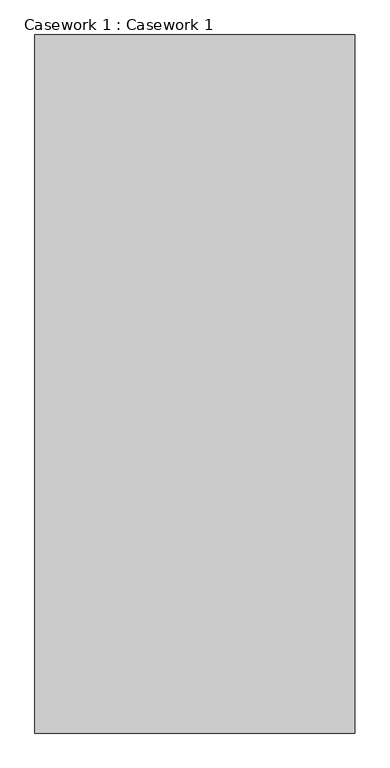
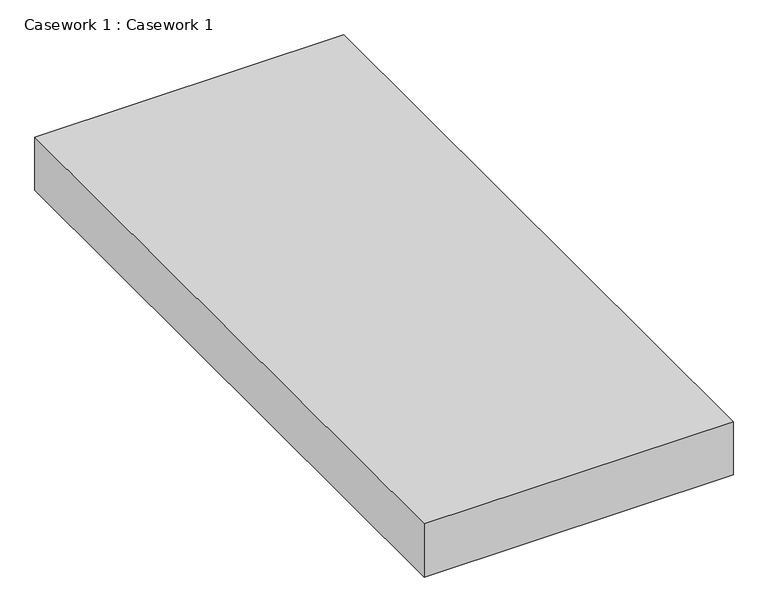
"""IFC4 building model written with IfcOpenShell, lengths in millimetres: furniture geometry, Casework 1 : Casework 1."""

from ifc_helpers import new_model, si_unit, origin, origin_with_axes, place, context, project, spatial, polyline, outline, extrude, source, transform, mapped, element, save


def casework_1_casework_1_6aa84fe4(model_context):
    return source(origin(), model_context, "Body", "SweptSolid", [
        extrude(outline(polyline([(1000.0, 4900.0), (1000.0, 2500.0), (-100.0, 2500.0), (-100.0, 4900.0), (1000.0, 4900.0)])), origin_with_axes(), (0.0, 0.0, 1.0), 200.0),
    ])


if __name__ == "__main__":
    model = new_model("IFC4")
    model_context = context("Model", 3, world=origin())
    ifc_project = project(units=[si_unit("LENGTHUNIT", "METRE", prefix="MILLI")], contexts=[model_context])
    site = spatial("IfcSite", under=ifc_project)
    building = spatial("IfcBuilding", under=site)
    placement = place(None, origin())
    casework_1_casework_1_shape = casework_1_casework_1_6aa84fe4(model_context)
    element("IfcFurniture", 1, ObjectType="Casework 1 : Casework 1", at=placement, inside=building, context=model_context, shape_type="MappedRepresentation", body=[
        mapped(casework_1_casework_1_shape, transform((0.0, 0.0, 0.0), x_axis=(1.0, 0.0, 0.0), y_axis=(0.0, 1.0, 0.0), z_axis=(0.0, 0.0, 1.0))),
    ])
    save(model, "model.ifc")
